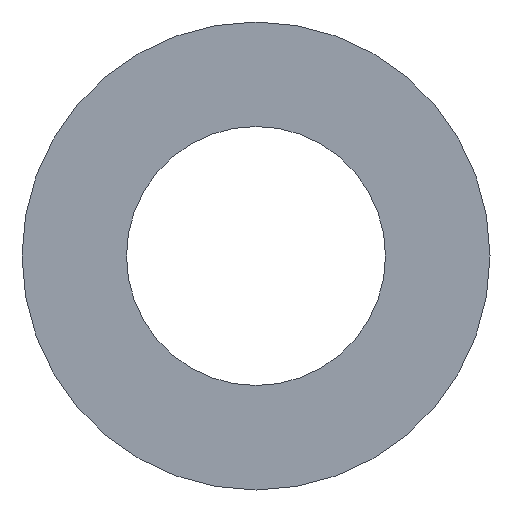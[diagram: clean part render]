
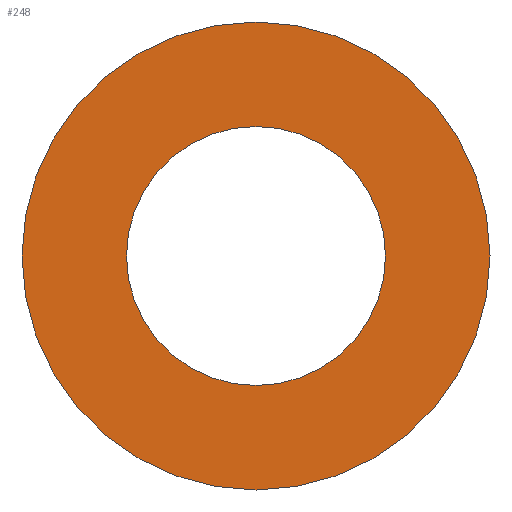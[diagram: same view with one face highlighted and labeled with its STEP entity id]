
A CAD part, front view. The second image highlights one B-rep face of the part: STEP entity #248.
In plain terms, the highlighted planar face has unit normal (0, -1, 0).
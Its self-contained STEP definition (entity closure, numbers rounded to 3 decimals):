
#9 = ORIENTED_EDGE ( 'NONE', *, *, #92, .F. ) ;
#10 = AXIS2_PLACEMENT_3D ( 'NONE', #149, #195, #234 ) ;
#16 = AXIS2_PLACEMENT_3D ( 'NONE', #176, #61, #197 ) ;
#19 = AXIS2_PLACEMENT_3D ( 'NONE', #26, #247, #217 ) ;
#25 = AXIS2_PLACEMENT_3D ( 'NONE', #41, #58, #43 ) ;
#26 = CARTESIAN_POINT ( 'NONE',  ( 0., -4., 0. ) ) ;
#38 = CARTESIAN_POINT ( 'NONE',  ( 0., -4., 15.5 ) ) ;
#41 = CARTESIAN_POINT ( 'NONE',  ( 0., -4., 0. ) ) ;
#43 = DIRECTION ( 'NONE',  ( 0., 0., 1. ) ) ;
#53 = ORIENTED_EDGE ( 'NONE', *, *, #192, .T. ) ;
#58 = DIRECTION ( 'NONE',  ( 0., 1., 0. ) ) ;
#59 = PLANE ( 'NONE',  #16 ) ;
#61 = DIRECTION ( 'NONE',  ( 0., -1., 0. ) ) ;
#65 = VERTEX_POINT ( 'NONE', #38 ) ;
#72 = ORIENTED_EDGE ( 'NONE', *, *, #113, .F. ) ;
#74 = VERTEX_POINT ( 'NONE', #168 ) ;
#81 = CIRCLE ( 'NONE', #164, 15.5 ) ;
#85 = CIRCLE ( 'NONE', #19, 28. ) ;
#92 = EDGE_CURVE ( 'NONE', #112, #214, #208, .T. ) ;
#106 = DIRECTION ( 'NONE',  ( 0., 1., 0. ) ) ;
#112 = VERTEX_POINT ( 'NONE', #242 ) ;
#113 = EDGE_CURVE ( 'NONE', #214, #112, #85, .T. ) ;
#125 = EDGE_CURVE ( 'NONE', #65, #74, #81, .T. ) ;
#141 = CARTESIAN_POINT ( 'NONE',  ( 0., -4., 0. ) ) ;
#149 = CARTESIAN_POINT ( 'NONE',  ( 0., -4., 0. ) ) ;
#164 = AXIS2_PLACEMENT_3D ( 'NONE', #141, #106, #200 ) ;
#167 = FACE_BOUND ( 'NONE', #218, .T. ) ;
#168 = CARTESIAN_POINT ( 'NONE',  ( 0., -4., -15.5 ) ) ;
#176 = CARTESIAN_POINT ( 'NONE',  ( 0., -4., 28. ) ) ;
#185 = FACE_OUTER_BOUND ( 'NONE', #235, .T. ) ;
#192 = EDGE_CURVE ( 'NONE', #74, #65, #230, .T. ) ;
#195 = DIRECTION ( 'NONE',  ( 0., 1., 0. ) ) ;
#197 = DIRECTION ( 'NONE',  ( 0., 0., -1. ) ) ;
#200 = DIRECTION ( 'NONE',  ( 0., 0., 1. ) ) ;
#204 = ORIENTED_EDGE ( 'NONE', *, *, #125, .T. ) ;
#208 = CIRCLE ( 'NONE', #10, 28. ) ;
#214 = VERTEX_POINT ( 'NONE', #219 ) ;
#217 = DIRECTION ( 'NONE',  ( 0., 0., 1. ) ) ;
#218 = EDGE_LOOP ( 'NONE', ( #204, #53 ) ) ;
#219 = CARTESIAN_POINT ( 'NONE',  ( 0., -4., 28. ) ) ;
#230 = CIRCLE ( 'NONE', #25, 15.5 ) ;
#234 = DIRECTION ( 'NONE',  ( 0., 0., 1. ) ) ;
#235 = EDGE_LOOP ( 'NONE', ( #72, #9 ) ) ;
#242 = CARTESIAN_POINT ( 'NONE',  ( 0., -4., -28. ) ) ;
#247 = DIRECTION ( 'NONE',  ( 0., 1., 0. ) ) ;
#248 = ADVANCED_FACE ( 'NONE', ( #167, #185 ), #59, .T. ) ;
